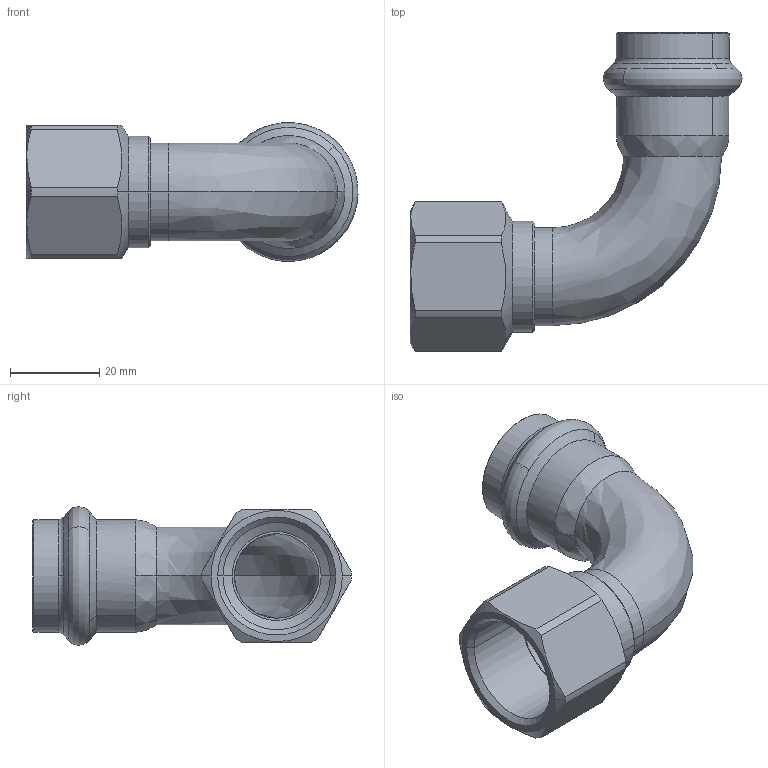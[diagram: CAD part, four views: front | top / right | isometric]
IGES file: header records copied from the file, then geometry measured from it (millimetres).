
Start section: Elysium IGES Interface
Global section: file name: C:\3d modellen sudo\C-Pr VP\SP8090GV\8090GVW2234.igs; native system: CoCreate Modeling 17.00A  17-Jun-2010; preprocessor: CoCreate IGES_3D V2.2; author: Unknown; organization: Unknown; date: 20130305.113620; units: millimetre
Bounding box: 74.59 x 71.64 x 31.18 mm (x, y, z)
Surface area: 16183.3 mm2 (no closed solid volume)
Topology: 0 solids, 1 shells, 84 faces, 201 edges, 121 vertices
Faces by surface type: bspline 84
